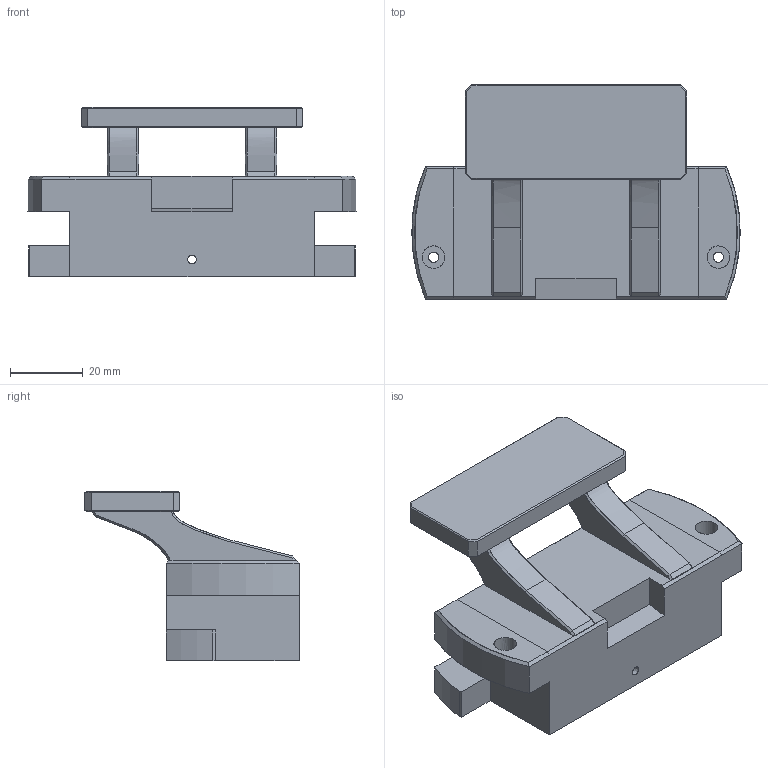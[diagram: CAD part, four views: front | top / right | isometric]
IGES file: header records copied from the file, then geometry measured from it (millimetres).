
Global section: file name: E:\M1337\M1337 Remodel\English\Clutch\IGES Files\Trigger.igs; native system: NX V2007; preprocessor: SIEMENS PLM Software NX 2027; date: 20260825.193158; units: inch
Bounding box: 90.07 x 58.78 x 46.55 mm (x, y, z)
Surface area: 20623.1 mm2 (no closed solid volume)
Topology: 0 solids, 0 shells, 119 faces, 787 edges, 878 vertices
Faces by surface type: bspline 119
